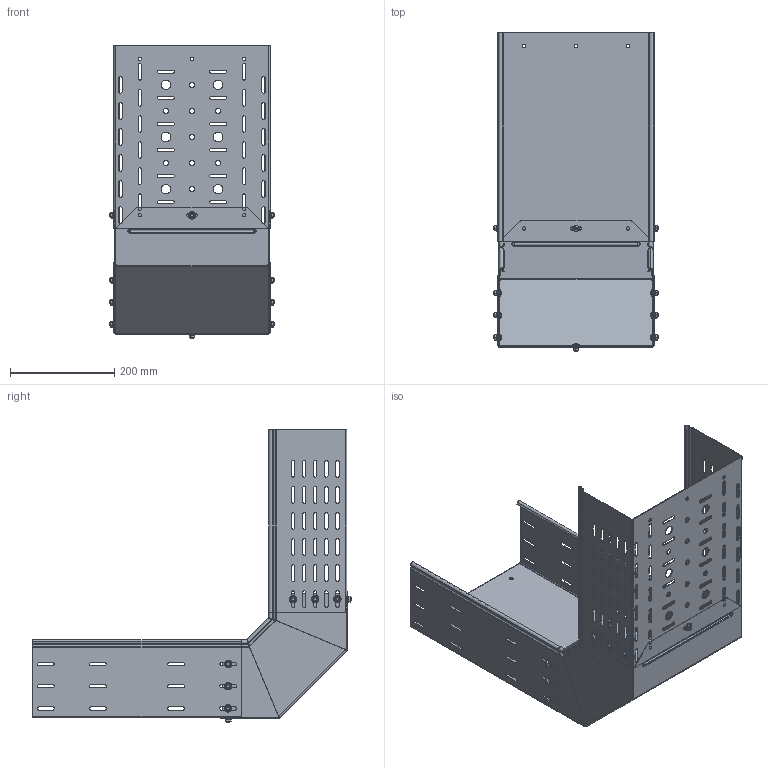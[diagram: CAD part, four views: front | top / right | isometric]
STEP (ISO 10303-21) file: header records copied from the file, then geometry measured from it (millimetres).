
FILE_DESCRIPTION (( 'STEP AP214' ), '1' );
FILE_NAME ('ﾓﾑﾂﾍﾐ+ﾓﾋ(ﾍ)+ﾓﾋ(ﾏ)_150.STEP', '2016-10-06T19:41:38', ( '' ), ( '' ), 'SwSTEP 2.0', 'SolidWorks 2016', '' );
FILE_SCHEMA (( 'AUTOMOTIVE_DESIGN' ));
Length unit declared in the file: millimetre
Products named in the file (6): hex flange nut_din_Hexagon Flange Nut DIN 6923 - M6 - N; pan head cross recess screw_din_ISO 7045 - M6 x 10 - Z --- 10N; ÓË(Ï)-300õÍõ550_3000.1,5.300.150; ÓË(Í)-300õÍõ550_3000.1,5.300.150; 082530 ÓÑÂÍÐ-300õ150; ﾓﾑﾂﾍﾐ+ﾓﾋ(ﾍ)+ﾓﾋ(ﾏ)_150
Assembly tree (31 placements, depth 2):
  ﾓﾑﾂﾍﾐ+ﾓﾋ(ﾍ)+ﾓﾋ(ﾏ)_150
    082530 ÓÑÂÍÐ-300õ150
    ÓË(Í)-300õÍõ550_3000.1,5.300.150
    ÓË(Ï)-300õÍõ550_3000.1,5.300.150
    pan head cross recess screw_din_ISO 7045 - M6 x 10 - Z --- 10N  x14
    hex flange nut_din_Hexagon Flange Nut DIN 6923 - M6 - N  x14
Bounding box: 315 x 611.09 x 561.09 mm (x, y, z)
Volume: 868190.5 mm3; surface area: 1307702 mm2
Topology: 31 solids, 31 shells, 2020 faces, 5102 edges, 3134 vertices
Faces by surface type: plane 846, cylinder 666, cone 252, bspline 128, torus 92, sphere 36
Entity records: 39220 total; most frequent: CARTESIAN_POINT 8915, DIRECTION 6292, ORIENTED_EDGE 6196, EDGE_CURVE 3098, AXIS2_PLACEMENT_3D 2260, VERTEX_POINT 1951, LINE 1772, VECTOR 1772
